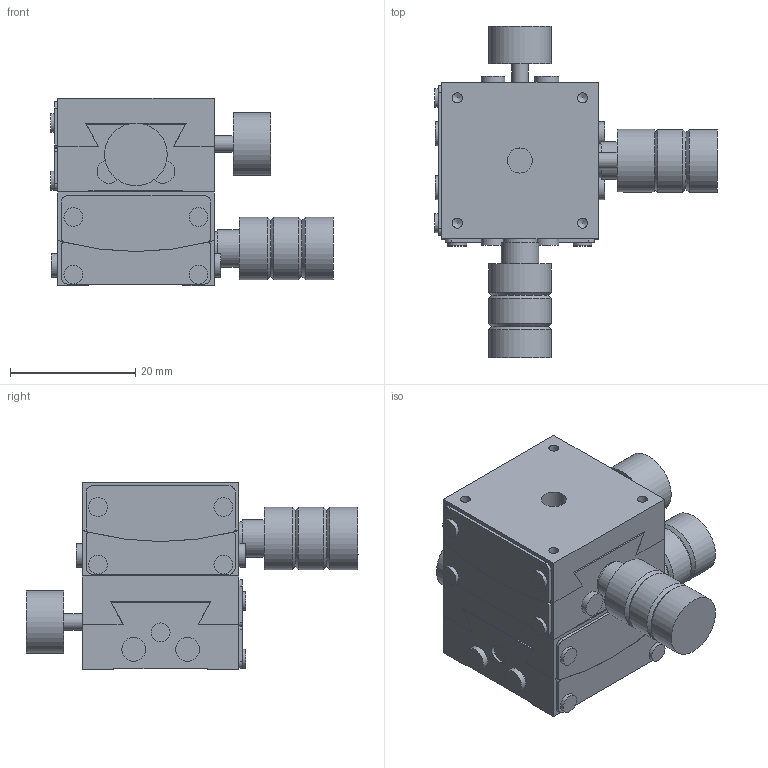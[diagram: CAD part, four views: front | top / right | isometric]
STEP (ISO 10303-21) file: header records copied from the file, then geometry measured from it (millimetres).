
FILE_DESCRIPTION( ( 'STEP AP203' ), '1' );
FILE_NAME( 'C:/Documents and Settings/09371/デスクトップ/CAD-ORG-STEP-DATA-3D簡素化依頼/3D_DATA_STEP/B55-25N.step', '2007-01-31T01:32:25', ( ' ' ), ( ' ' ), 'XStep 1.0', ' ', ' ' );
FILE_SCHEMA( ( 'CONFIG_CONTROL_DESIGN' ) );
Length unit declared in the file: millimetre
Products named in the file (6): 1; 2; 3; 4; 5; 6
Bounding box: 45.1 x 53 x 30 mm (x, y, z)
Volume: 21645.3 mm3; surface area: 13362.7 mm2
Topology: 6 solids, 6 shells, 238 faces, 594 edges, 402 vertices
Faces by surface type: cylinder 110, plane 104, cone 24
Full cylindrical faces by diameter (mm): 1.6 x16, 2.5 x8, 2.6 x2, 3 x12, 3.8 x8, 4 x4, 4.2 x8, 5.4 x2, 6 x2, 10 x8
Entity records: 7054 total; most frequent: CARTESIAN_POINT 1674, DIRECTION 1082, ORIENTED_EDGE 896, AXIS2_PLACEMENT_3D 448, EDGE_CURVE 448, EDGE_LOOP 380, VERTEX_POINT 352, FACE_OUTER_BOUND 308
